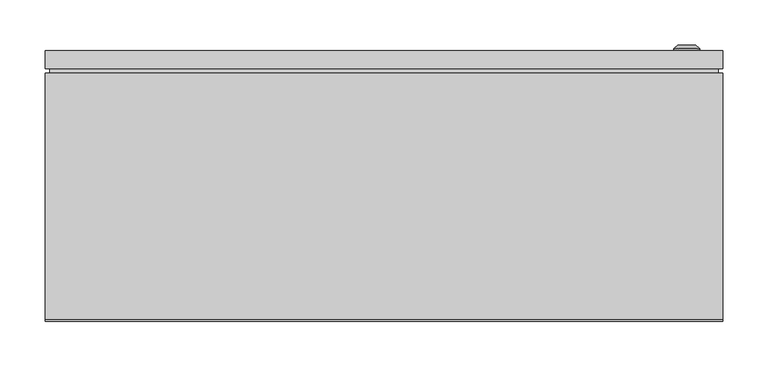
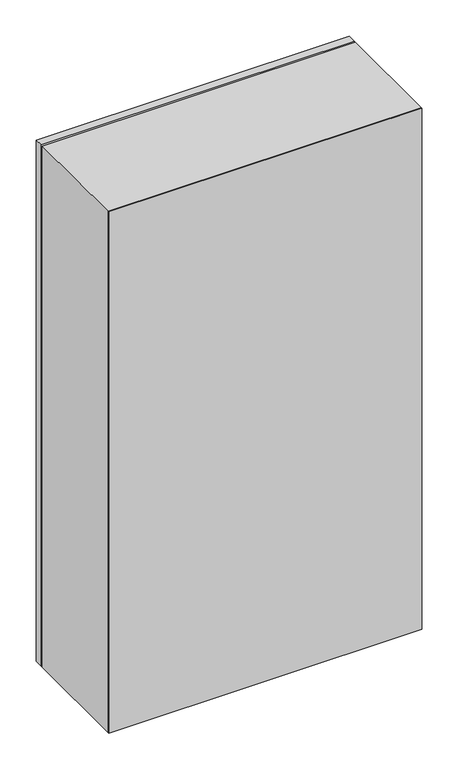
"""IFC4 building model written with IfcOpenShell, lengths in millimetres: proxy geometry, ЩМП_IP65 : ЩМП-7-0_1320х750х300."""

import ifcopenshell
import ifcopenshell.guid

model = None  # the IFC model being written
_history = None  # IfcOwnerHistory: only IFC2X3 demands one
_inside = {}  # id of a spatial element -> (the spatial element, [elements in it])
_under = {}  # id of a project, library or spatial element -> (it, [spatial elements below it])
_declared = {}  # id of a project -> (the project, [libraries it declares])
_typed = {}  # id of a type object -> (the type object, [elements of that type])
_made_of = {}  # id of a material, layer set ... -> (it, [elements and type objects made of it])


def new_model(schema):
    """Start an empty IFC model of exactly this schema.

    Asked for "IFC4X3", IfcOpenShell would pick the latest addendum, in which some entities
    have other attributes; the version numbers below select the first issue.
    IFC2X3 requires an IfcOwnerHistory on every rooted entity: one is made here for all.
    """
    global model, _history
    if schema == "IFC4X3":
        model = ifcopenshell.file(schema_version=(4, 3, 0, 0))
    else:
        model = ifcopenshell.file(schema=schema)
    _inside.clear()
    _under.clear()
    _declared.clear()
    _typed.clear()
    _made_of.clear()
    _history = None
    if model.schema == "IFC2X3":
        org = make("IfcOrganization", Name="unknown")
        user = make(
            "IfcPersonAndOrganization",
            ThePerson=make("IfcPerson", FamilyName="unknown"),
            TheOrganization=org,
        )
        app = make(
            "IfcApplication",
            ApplicationDeveloper=org,
            Version="unknown",
            ApplicationFullName="unknown",
            ApplicationIdentifier="unknown",
        )
        _history = make(
            "IfcOwnerHistory",
            OwningUser=user,
            OwningApplication=app,
            ChangeAction="ADDED",
            CreationDate=0,
        )
    return model


def make(cls, **values):
    """One entity of the class cls with the attributes given. An attribute that is None is left unset."""
    return model.create_entity(
        cls, **{name: value for name, value in values.items() if value is not None}
    )


def rooted(cls, **values):
    """An entity with a GlobalId (a new one), such as an element, a storey or a relation."""
    return make(cls, GlobalId=ifcopenshell.guid.new(), OwnerHistory=_history, **values)


def si_unit(unit_type, name, prefix=None):
    """IfcSIUnit, for example si_unit("LENGTHUNIT", "METRE", prefix="MILLI")."""
    return make("IfcSIUnit", UnitType=unit_type, Prefix=prefix, Name=name)


def assignment(units):
    """IfcUnitAssignment: the units of a project."""
    return None if units is None else make("IfcUnitAssignment", Units=units)


def point(xyz):
    """IfcCartesianPoint."""
    return None if xyz is None else make("IfcCartesianPoint", Coordinates=xyz)


def direction(xyz):
    """IfcDirection."""
    return None if xyz is None else make("IfcDirection", DirectionRatios=xyz)


def frame(location, z_axis=None, x_axis=None):
    """IfcAxis2Placement3D, a coordinate frame: its origin and axes. An axis left out is left unset."""
    return make(
        "IfcAxis2Placement3D",
        Location=point(location),
        Axis=direction(z_axis),
        RefDirection=direction(x_axis),
    )


def origin():
    """The frame at (0, 0, 0) with its axes left unset."""
    return frame((0.0, 0.0, 0.0))


def origin_with_axes():
    """The frame at (0, 0, 0) with the z axis (0, 0, 1) and the x axis (1, 0, 0) written out."""
    return frame((0.0, 0.0, 0.0), z_axis=(0.0, 0.0, 1.0), x_axis=(1.0, 0.0, 0.0))


def place(relative_to, where):
    """IfcLocalPlacement: puts the frame where relative to a parent placement (None: the world)."""
    return make(
        "IfcLocalPlacement", PlacementRelTo=relative_to, RelativePlacement=where
    )


def context(
    kind, dimensions, precision=None, world=None, true_north=None, identifier=None
):
    """IfcGeometricRepresentationContext, for example the 3D "Model" context."""
    return make(
        "IfcGeometricRepresentationContext",
        ContextIdentifier=identifier,
        ContextType=kind,
        CoordinateSpaceDimension=dimensions,
        Precision=precision,
        WorldCoordinateSystem=world,
        TrueNorth=true_north,
    )


def project(units=None, contexts=None):
    """IfcProject with its units and contexts."""
    return rooted(
        "IfcProject",
        Name="project",
        RepresentationContexts=contexts,
        UnitsInContext=assignment(units),
    )


def spatial(cls, under=None, at=None, **own):
    """A site, building, storey or space (cls), placed at a placement, below another one or the project."""
    s = rooted(cls, ObjectPlacement=at, **own)
    if under is not None:
        _under.setdefault(under.id(), (under, []))[1].append(s)
    return s


def polyline(points):
    """IfcPolyline through the points."""
    return make("IfcPolyline", Points=[point(p) for p in points])


def circle_curve(where, radius):
    """IfcCircle in the frame where."""
    return make("IfcCircle", Position=where, Radius=radius)


def outline(outer, holes=None, kind="AREA"):
    """IfcArbitraryClosedProfileDef: a profile drawn as a closed curve; with holes, ...WithVoids."""
    if holes is None:
        return make("IfcArbitraryClosedProfileDef", ProfileType=kind, OuterCurve=outer)
    return make(
        "IfcArbitraryProfileDefWithVoids",
        ProfileType=kind,
        OuterCurve=outer,
        InnerCurves=holes,
    )


def extrude(swept, where, along, depth):
    """IfcExtrudedAreaSolid: the profile swept, set in the frame where, extruded along a direction by depth."""
    return make(
        "IfcExtrudedAreaSolid",
        SweptArea=swept,
        Position=where,
        ExtrudedDirection=direction(along),
        Depth=depth,
    )


def shape(context_of_items, identifier, shape_type, items):
    """IfcShapeRepresentation: the items that make up one representation, for example the "Body"."""
    return make(
        "IfcShapeRepresentation",
        ContextOfItems=context_of_items,
        RepresentationIdentifier=identifier,
        RepresentationType=shape_type,
        Items=items,
    )


def source(mapping_origin, context_of_items, identifier, shape_type, items):
    """IfcRepresentationMap: a shape defined once, which mapped items show again and again."""
    return make(
        "IfcRepresentationMap",
        MappingOrigin=mapping_origin,
        MappedRepresentation=shape(context_of_items, identifier, shape_type, items),
    )


def transform(
    local_origin,
    x_axis=None,
    y_axis=None,
    z_axis=None,
    scale=None,
    scale2=None,
    scale3=None,
    uniform=True,
):
    """IfcCartesianTransformationOperator3D, or its non-uniform kind. x_axis, y_axis, z_axis: its Axis1, 2, 3."""
    if uniform:
        return make(
            "IfcCartesianTransformationOperator3D",
            Axis1=direction(x_axis),
            Axis2=direction(y_axis),
            LocalOrigin=point(local_origin),
            Scale=scale,
            Axis3=direction(z_axis),
        )
    return make(
        "IfcCartesianTransformationOperator3DnonUniform",
        Axis1=direction(x_axis),
        Axis2=direction(y_axis),
        LocalOrigin=point(local_origin),
        Scale=scale,
        Axis3=direction(z_axis),
        Scale2=scale2,
        Scale3=scale3,
    )


def mapped(mapping_source, mapping_target):
    """IfcMappedItem: shows the shape of a source again, moved by a transform."""
    return make(
        "IfcMappedItem", MappingSource=mapping_source, MappingTarget=mapping_target
    )


def made_of(thing, what):
    """Note that an element or type object is made of a material, layer set ...; save() writes the relation."""
    if what is not None:
        _made_of.setdefault(what.id(), (what, []))[1].append(thing)
    return thing


def element(
    cls,
    number,
    at=None,
    inside=None,
    cuts=None,
    type_object=None,
    material=None,
    context=None,
    identifier="Body",
    shape_type=None,
    held_by="IfcProductDefinitionShape",
    body=None,
    shapes=None,
    **own,
):
    """One element of the class cls, such as IfcWall. Its Tag is "e" and its number.

    at: its placement. inside: the storey or other place that contains it. cuts: it is an
    opening in that element (IfcRelVoidsElement). A single representation is given by context,
    identifier, shape_type and body (its items); several are given by shapes. held_by: the class
    of the entity that holds the representations. save() writes the other relations.
    """
    e = rooted(cls, Tag="e%d" % number, ObjectPlacement=at, **own)
    if body is not None:
        shapes = [shape(context, identifier, shape_type, body)]
    if shapes is not None:
        e.Representation = make(held_by, Representations=shapes)
    if inside is not None:
        _inside.setdefault(inside.id(), (inside, []))[1].append(e)
    if cuts is not None:
        rooted(
            "IfcRelVoidsElement", RelatingBuildingElement=cuts, RelatedOpeningElement=e
        )
    if type_object is not None:
        _typed.setdefault(type_object.id(), (type_object, []))[1].append(e)
    return made_of(e, material)


def aggregate(whole, parts):
    """IfcRelAggregates: a whole, such as a stair, and the parts it consists of."""
    return rooted("IfcRelAggregates", RelatingObject=whole, RelatedObjects=parts)


def save(model, path):
    """Write the relations noted so far, then the file.

    IfcRelAggregates (storeys below a building ...), IfcRelContainedInSpatialStructure (elements
    in a storey), IfcRelDefinesByType, IfcRelAssociatesMaterial and IfcRelDeclares: one each for
    every whole, place, type object, material and project.
    """
    for whole, parts in _under.values():
        aggregate(whole, parts)
    for where, things in _inside.values():
        rooted(
            "IfcRelContainedInSpatialStructure",
            RelatedElements=things,
            RelatingStructure=where,
        )
    for kind, things in _typed.values():
        rooted("IfcRelDefinesByType", RelatedObjects=things, RelatingType=kind)
    for what, things in _made_of.values():
        rooted("IfcRelAssociatesMaterial", RelatedObjects=things, RelatingMaterial=what)
    for by, libraries in _declared.values():
        rooted("IfcRelDeclares", RelatingContext=by, RelatedDefinitions=libraries)
    model.write(path)


def plane_surface(at):
    """IfcPlane: the flat surface through the origin of the frame at, square to its z axis."""
    return make("IfcPlane", Position=at)


def cylinder_surface(at, radius):
    """IfcCylindricalSurface: all points at the distance radius from the z axis of the frame at."""
    return make("IfcCylindricalSurface", Position=at, Radius=radius)


def revolved_surface(curve, axis_point, axis_direction):
    """IfcSurfaceOfRevolution: the curve turned about the line through axis_point along axis_direction."""
    return make(
        "IfcSurfaceOfRevolution",
        SweptCurve=make("IfcArbitraryOpenProfileDef", ProfileType="CURVE", Curve=curve),
        AxisPosition=make("IfcAxis1Placement", Location=point(axis_point), Axis=direction(axis_direction)),
    )


def advanced_brep(points, edges, surfaces, faces):
    """IfcAdvancedBrep: a solid bounded by faces that lie on surfaces and meet in shared edges.

    An edge is (start, end): straight between two places in points (the first is 0);
    or (start, end, curve); or (start, end, curve, False) where it runs against its curve.
    A face is (place in surfaces, loops), or (place, loops, False) where it looks against
    its surface's normal. A loop lists edges by number (the first is 1), with a minus sign
    where the edge is run from its end to its start. The first loop is the outer one.
    """
    corners = [point(p) for p in points]
    vertices = [make("IfcVertexPoint", VertexGeometry=c) for c in corners]
    made = []
    for start, end, *more in edges:
        made.append(
            make(
                "IfcEdgeCurve",
                EdgeStart=vertices[start],
                EdgeEnd=vertices[end],
                EdgeGeometry=more[0] if more else make("IfcPolyline", Points=[corners[start], corners[end]]),
                SameSense=more[1] if len(more) > 1 else True,
            )
        )
    hull = []
    for where, loops, *sense in faces:
        bounds = []
        for j, loop in enumerate(loops):
            ring = [make("IfcOrientedEdge", EdgeElement=made[abs(k) - 1], Orientation=k > 0) for k in loop]
            bounds.append(
                make(
                    "IfcFaceOuterBound" if j == 0 else "IfcFaceBound",
                    Bound=make("IfcEdgeLoop", EdgeList=ring),
                    Orientation=True,
                )
            )
        hull.append(make("IfcAdvancedFace", Bounds=bounds, FaceSurface=surfaces[where], SameSense=sense[0] if sense else True))
    return make("IfcAdvancedBrep", Outer=make("IfcClosedShell", CfsFaces=hull))


def electrical_equipment_3daa919d(model_context):
    return source(origin(), model_context, "Body", "SolidModel", [
        extrude(outline(polyline([(370.0, 275.0), (-370.0, 275.0), (-370.0, 280.0), (370.0, 280.0), (370.0, 275.0)])), frame((0.0, 0.0, 5.0), z_axis=(0.0, 0.0, 1.0), x_axis=(1.0, 0.0, 0.0)), (0.0, 0.0, 1.0), 1310.0),
        extrude(outline(polyline([(375.0, 280.0), (-375.0, 280.0), (-375.0, 300.0), (375.0, 300.0), (375.0, 280.0)])), origin_with_axes(), (0.0, 0.0, 1.0), 1320.0),
        advanced_brep(
        [(320.669873, 300.0, 660.0), (349.330127, 300.0, 660.0), (335.0, 300.0, 660.0), (320.669873, 302.366592, 660.0), (349.330127, 302.366592, 660.0), (325.0, 306.0, 660.0), (345.0, 306.0, 660.0), (333.1080471, 306.0, 660.0), (336.8919529, 306.0, 660.0), (333.1080471, 304.9822294, 660.0), (336.8919529, 304.9822294, 660.0), (335.0, 304.9822294, 660.0)],
        [
            (0, 1, circle_curve(frame((335.0, 300.0, 660.0), z_axis=(0.0, -1.0, 0.0), x_axis=(1.0, 0.0, 0.0)), 14.330127)),
            (1, 2),
            (2, 0),
            (1, 0, circle_curve(frame((335.0, 300.0, 660.0), z_axis=(0.0, -1.0, 0.0), x_axis=(1.0, 0.0, 0.0)), 14.330127)),
            (3, 4, circle_curve(frame((335.0, 302.366592, 660.0), z_axis=(0.0, -1.0, 0.0), x_axis=(1.0, 0.0, 0.0)), 14.330127)),
            (4, 1),
            (0, 3),
            (4, 3, circle_curve(frame((335.0, 302.366592, 660.0), z_axis=(0.0, -1.0, 0.0), x_axis=(1.0, 0.0, 0.0)), 14.330127)),
            (5, 6, circle_curve(frame((335.0, 306.0, 660.0), z_axis=(0.0, -1.0, 0.0), x_axis=(1.0, 0.0, 0.0)), 10.0)),
            (6, 4),
            (3, 5),
            (6, 5, circle_curve(frame((335.0, 306.0, 660.0), z_axis=(0.0, -1.0, 0.0), x_axis=(1.0, 0.0, 0.0)), 10.0)),
            (7, 8, circle_curve(frame((335.0, 306.0, 660.0), z_axis=(0.0, -1.0, 0.0), x_axis=(1.0, 0.0, 0.0)), 1.8919529)),
            (8, 6),
            (5, 7),
            (8, 7, circle_curve(frame((335.0, 306.0, 660.0), z_axis=(0.0, -1.0, 0.0), x_axis=(1.0, 0.0, 0.0)), 1.8919529)),
            (9, 10, circle_curve(frame((335.0, 304.9822294, 660.0), z_axis=(0.0, -1.0, 0.0), x_axis=(1.0, 0.0, 0.0)), 1.8919529)),
            (10, 8),
            (7, 9),
            (10, 9, circle_curve(frame((335.0, 304.9822294, 660.0), z_axis=(0.0, -1.0, 0.0), x_axis=(1.0, 0.0, 0.0)), 1.8919529)),
            (11, 10),
            (9, 11),
        ],
        [
            plane_surface(frame((335.0, 300.0, 660.0), z_axis=(0.0, -1.0, 0.0), x_axis=(1.0, 0.0, 0.0))),
            cylinder_surface(frame((335.0, 313.1348851, 660.0), z_axis=(0.0, 1.0, 0.0), x_axis=(1.0, 0.0, 0.0)), 14.330127),
            revolved_surface(polyline([(349.330127, 302.366592, 660.0), (345.0, 306.0, 660.0)]), (335.0, 313.1348851, 660.0), (0.0, 1.0, 0.0)),
            plane_surface(frame((335.0, 306.0, 660.0), z_axis=(0.0, 1.0, 0.0), x_axis=(1.0, 0.0, 0.0))),
            revolved_surface(polyline([(336.8919529, 306.0, 660.0), (336.8919529, 304.9822294, 660.0)]), (335.0, 313.1348851, 660.0), (0.0, 1.0, 0.0)),
            plane_surface(frame((335.0, 304.9822294, 660.0), z_axis=(0.0, 1.0, 0.0), x_axis=(1.0, 0.0, 0.0))),
        ],
        [
            (0, [[1, 2, 3]]),
            (0, [[4, -3, -2]]),
            (1, [[5, 6, -1, 7]]),
            (1, [[8, -7, -4, -6]]),
            (2, [[9, 10, -5, 11]]),
            (2, [[12, -11, -8, -10]]),
            (3, [[13, 14, -9, 15]]),
            (3, [[16, -15, -12, -14]]),
            (4, [[17, 18, -13, 19]]),
            (4, [[20, -19, -16, -18]]),
            (5, [[21, -17, 22]]),
            (5, [[-22, -20, -21]]),
        ],
    ),
        extrude(outline(polyline([(1320.0, -375.0033905), (0.0, -375.0033905), (0.0, 374.9966095), (1320.0, 374.9966095), (1320.0, -375.0033905)]), holes=[polyline([(1285.0, -345.0033905), (1285.0, 344.9966095), (35.0, 344.9966095), (35.0, -345.0033905), (1285.0, -345.0033905)])]), frame((0.0, 2.0, 0.0), z_axis=(0.0, 1.0, 0.0), x_axis=(0.0, 0.0, 1.0)), (0.0, 0.0, 1.0), 273.0),
        extrude(outline(polyline([(375.0, 0.0), (-375.0, 0.0), (-375.0, 2.0), (375.0, 2.0), (375.0, 0.0)])), origin_with_axes(), (0.0, 0.0, 1.0), 1320.0),
    ])


if __name__ == "__main__":
    model = new_model("IFC4")
    model_context = context("Model", 3, world=origin())
    ifc_project = project(units=[si_unit("LENGTHUNIT", "METRE", prefix="MILLI")], contexts=[model_context])
    site = spatial("IfcSite", under=ifc_project)
    building = spatial("IfcBuilding", under=site)
    placement = place(None, origin())
    electrical_equipment_shape = electrical_equipment_3daa919d(model_context)
    element("IfcBuildingElementProxy", 1, Name="ЩМП_IP65 : ЩМП-7-0_1320х750х300", ObjectType="ЩМП_IP65 : ЩМП-7-0_1320х750х300", at=placement, inside=building, context=model_context, shape_type="MappedRepresentation", body=[
        mapped(electrical_equipment_shape, transform((0.0, 0.0, 0.0), x_axis=(1.0, 0.0, 0.0), y_axis=(0.0, 1.0, 0.0), z_axis=(0.0, 0.0, 1.0))),
    ])
    save(model, "model.ifc")
